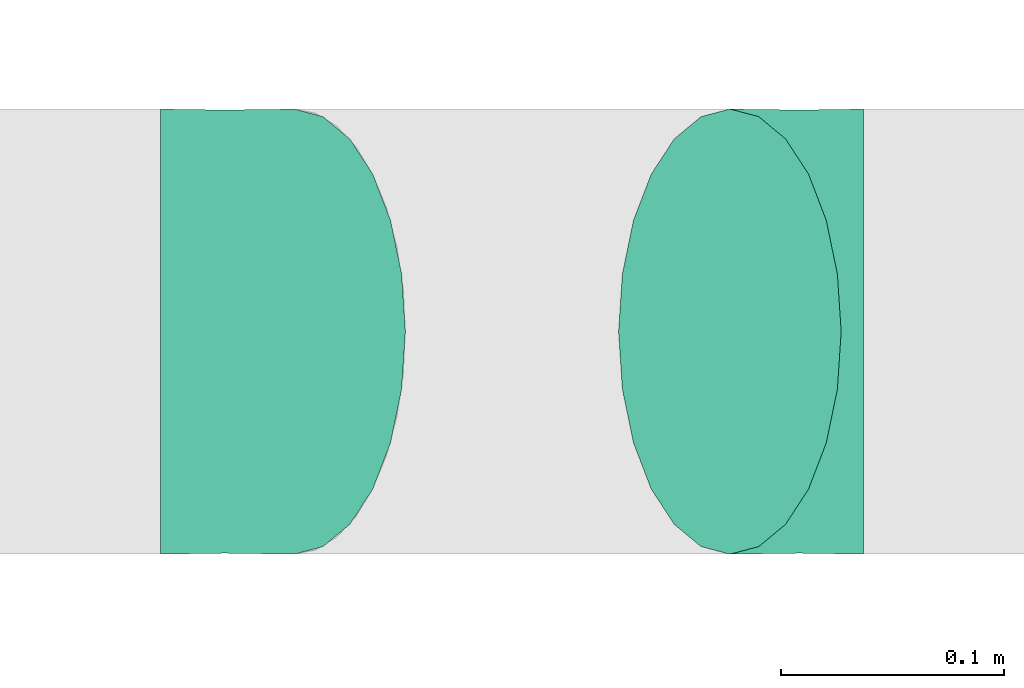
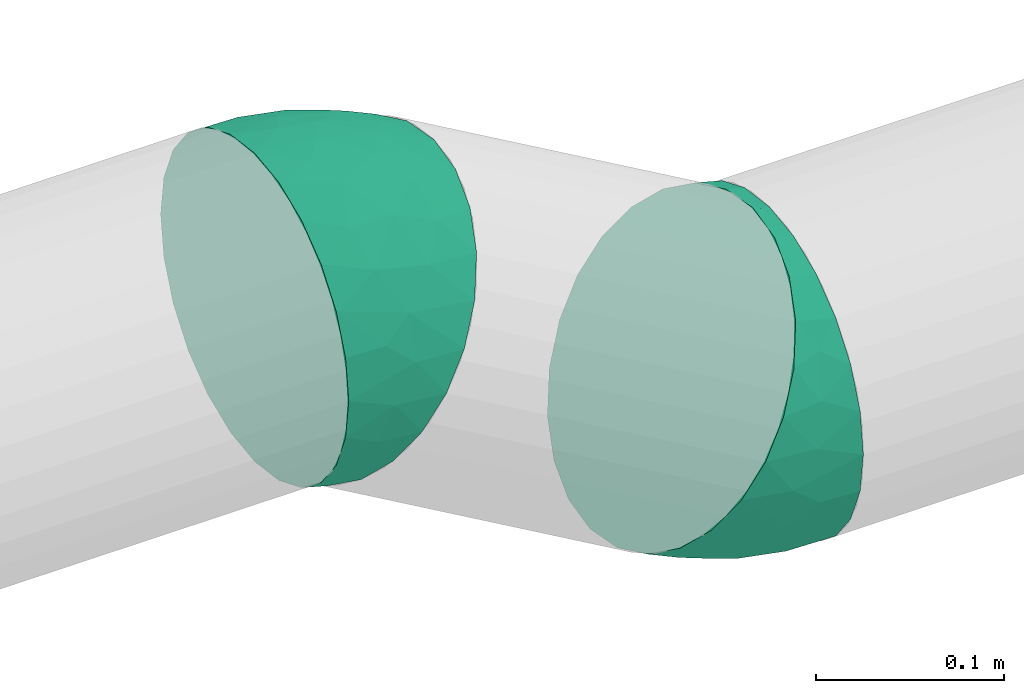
# One storey, part 16 of 16: 2 flow fittings.
"""IFC2X3 building model written with IfcOpenShell, lengths in millimetres."""

from ifc_helpers import new_model, entity, si_unit, converted_unit, derived_unit, direction, frame, origin_with_axes, place, context, subcontext, project, spatial, open_shell, surface_model, source, transform, mapped, type_object, element, save


model = new_model("IFC2X3")

# Units and contexts
model_context = context("Model", 3, precision=0.01, world=frame((0.0, 4.29681676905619e-09, 0.0)), true_north=direction((4.01073788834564e-13, 1.0)))
plan_context = context("Plan", 3, precision=0.01, world=frame((0.0, 4.29681676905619e-09, 0.0)), true_north=direction((4.01073788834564e-13, 1.0)))
body_context = subcontext(model_context, "Body", "Model", "MODEL_VIEW")
ifc_project = project(units=[converted_unit("PLANEANGLEUNIT", "DEGREE", entity("IfcPositiveLengthMeasure", 0.0174532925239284), si_unit("PLANEANGLEUNIT", "RADIAN"), dimensions=[0, 0, 0, 0, 0, 0, 0]), si_unit("AREAUNIT", "SQUARE_METRE"), si_unit("LENGTHUNIT", "METRE", prefix="MILLI"), si_unit("MASSUNIT", "GRAM", prefix="KILO"), si_unit("POWERUNIT", "WATT"), si_unit("PRESSUREUNIT", "PASCAL"), si_unit("FORCEUNIT", "NEWTON", prefix="KILO"), si_unit("ELECTRICVOLTAGEUNIT", "VOLT"), si_unit("ELECTRICCURRENTUNIT", "AMPERE"), si_unit("THERMODYNAMICTEMPERATUREUNIT", "DEGREE_CELSIUS"), si_unit("TIMEUNIT", "SECOND"), si_unit("VOLUMEUNIT", "CUBIC_METRE"), derived_unit("LINEARVELOCITYUNIT", [(si_unit("LENGTHUNIT", "METRE"), 1), (si_unit("TIMEUNIT", "SECOND"), -1)]), derived_unit("VOLUMETRICFLOWRATEUNIT", [(si_unit("VOLUMEUNIT", "CUBIC_METRE"), 1), (si_unit("TIMEUNIT", "SECOND"), -1)]), derived_unit("THERMALTRANSMITTANCEUNIT", [(si_unit("POWERUNIT", "WATT"), 1), (si_unit("THERMODYNAMICTEMPERATUREUNIT", "KELVIN"), -1), (si_unit("AREAUNIT", "SQUARE_METRE"), -1)]), derived_unit("SOUNDPRESSUREUNIT", [(si_unit("PRESSUREUNIT", "PASCAL"), 1)])], contexts=[model_context, plan_context])

# Site, building, storey
site_placement = place(None, frame((0.0, -4.29681676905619e-09, 0.0), z_axis=(0.0, 0.0, 1.0), x_axis=(1.0, 0.0, 0.0)))
site = spatial("IfcSite", under=ifc_project, at=site_placement, Name="ENGM", CompositionType="ELEMENT")
building_placement = place(site_placement, frame((0.0, 4.29681676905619e-09, 0.0), z_axis=(0.0, 0.0, 1.0), x_axis=(1.0, 0.0, 0.0)))
building = spatial("IfcBuilding", under=site, at=building_placement, Name="TH", CompositionType="ELEMENT")
storey_placement = place(building_placement, frame((0.0, 0.0, 210200.0), z_axis=(0.0, 0.0, 1.0), x_axis=(1.0, 0.0, 0.0)))
storey = spatial("IfcBuildingStorey", under=building, at=storey_placement, Name="Nivå F - 0,7 m", CompositionType="ELEMENT", Elevation=210200.0)

# Flow fittings
duct_fitting_type = type_object("IfcDuctFittingType", Name="magicirc_elbow_short_001", PredefinedType="BEND")
shared_shape_1 = source(origin_with_axes(), body_context, "Body", "SurfaceModel", [
    surface_model("IfcShellBasedSurfaceModel", [(-32.1539, 0.0, -100.0), (-32.1539, -70.71068, -70.71068), (-32.1539, 25.8819, -96.59259), (-32.1539, 50.0, -86.60254), (-32.1539, 70.71068, -70.71068), (-32.1539, 96.59259, -25.8819), (-32.1539, 86.60254, -50.0), (-32.1539, -86.60254, -50.0), (-32.1539, -50.0, -86.60254), (-32.1539, -25.8819, -96.59259), (-32.1539, -96.59259, -25.8819), (-32.1539, -100.0, 0.0), (-32.1539, 96.59259, 25.8819), (-32.1539, 25.8819, 96.59259), (-32.1539, 86.60254, 50.0), (-32.1539, 50.0, 86.60254), (-32.1539, 70.71068, 70.71068), (-32.1539, -25.8819, 96.59259), (-32.1539, -70.71068, 70.71068), (-32.1539, -50.0, 86.60254), (-32.1539, -86.60254, 50.0), (-32.1539, -96.59259, 25.8819), (-32.1539, 0.0, 100.0), (-32.1539, 100.0, 0.0), (14.90514, 38.49134, -96.59259), (71.14737, -58.92305, -50.0), (27.8461, 16.07695, -100.0), (-7.50924, 77.31419, -70.71068), (2.8461, 59.37822, -86.60254), (-15.45517, 91.07695, -50.0), (76.14239, -67.57468, 25.8819), (40.78705, -6.33744, -96.59259), (63.20143, -45.16029, -70.71068), (52.8461, -27.22432, -86.60254), (77.84609, -70.52559, 0.0), (76.14239, -67.57468, -25.8819), (-20.45019, 99.72858, -25.8819), (14.90514, 38.49134, 96.59259), (-22.1539, 102.67949, 0.0), (-20.45019, 99.72858, 25.8819), (-7.50924, 77.31419, 70.71068), (-15.45517, 91.07695, 50.0), (2.8461, 59.37822, 86.60254), (40.78705, -6.33744, 96.59259), (71.14737, -58.92305, 50.0), (52.8461, -27.22432, 86.60254), (63.20143, -45.16029, 70.71068), (27.8461, 16.07695, 100.0), (-8.47463, -79.45846, 58.83709), (1.79522, -91.05127, 34.75994), (20.30254, -75.77013, 56.25526), (-8.04216, -97.13699, 17.41662), (6.0487, -96.65771, 0.0), (43.97093, -79.75033, 34.75994), (-0.06252, -60.74726, 77.19029), (9.90667, -36.97222, 90.51482), (-3.98227, -13.32425, 98.66787), (-3.55561, 13.2697, 99.54728), (-10.26931, 38.32557, 93.50772), (-16.33227, 60.95287, 80.83522), (47.06847, -64.57573, 58.83709), (-26.97752, 100.68148, 0.0), (32.72282, -51.50192, 77.36383), (16.69527, -92.85077, 17.90344), (18.63137, -17.74909, 96.33837), (55.53321, -80.10203, 17.41662), (43.09053, -86.73238, 0.0), (43.97093, -79.75033, -34.75994), (30.42778, -52.57741, -77.19029), (-10.26931, 38.32557, -93.50772), (-3.55561, 13.2697, -99.54728), (10.11088, -9.548, -98.66787), (-7.2607, -24.68685, -96.33837), (20.30254, -75.77013, -56.25526), (-2.58784, -60.96338, -77.36383), (-16.33227, 60.95287, -80.83522), (-8.04216, -97.13699, -17.41662), (1.79523, -91.05126, -34.75994), (-8.47463, -79.45846, -58.83709), (31.96686, -88.75877, -17.90344), (55.53321, -80.10203, -17.41662), (47.06847, -64.57573, -58.83709), (9.90668, -36.97222, -90.51482)], [open_shell([[[0, 1, 2]], [[3, 2, 4]], [[5, 6, 4]], [[7, 4, 2]], [[4, 7, 5]], [[8, 1, 9]], [[1, 0, 9]], [[10, 11, 7]], [[7, 2, 1]], [[7, 11, 5]], [[11, 12, 5]], [[13, 12, 11]], [[14, 12, 13]], [[13, 15, 16]], [[14, 13, 16]], [[17, 13, 11]], [[18, 19, 20]], [[21, 20, 19]], [[19, 17, 21]], [[21, 17, 11]], [[17, 22, 13]], [[12, 23, 5]], [[24, 25, 26]], [[27, 24, 28]], [[24, 29, 30]], [[29, 24, 27]], [[24, 30, 25]], [[31, 32, 33]], [[32, 31, 25]], [[25, 34, 35]], [[25, 31, 26]], [[25, 30, 34]], [[30, 29, 36]], [[37, 38, 39]], [[40, 39, 41]], [[42, 37, 39]], [[42, 39, 40]], [[38, 37, 43]], [[44, 45, 46]], [[45, 44, 30]], [[30, 43, 45]], [[36, 43, 30]], [[37, 47, 43]], [[43, 36, 38]], [[48, 49, 50]], [[51, 11, 52]], [[49, 53, 50]], [[48, 54, 18]], [[55, 19, 54]], [[20, 48, 18]], [[21, 49, 20]], [[17, 19, 55]], [[22, 56, 57]], [[19, 18, 54]], [[11, 51, 21]], [[21, 51, 49]], [[57, 13, 22]], [[58, 15, 13]], [[17, 55, 56]], [[22, 17, 56]], [[57, 58, 13]], [[59, 16, 15]], [[53, 60, 50]], [[16, 41, 14]], [[39, 12, 14]], [[49, 48, 20]], [[12, 61, 23]], [[55, 62, 45]], [[49, 63, 53]], [[63, 51, 52]], [[56, 47, 57]], [[45, 62, 46]], [[43, 64, 45]], [[64, 47, 56]], [[65, 30, 53]], [[44, 60, 53]], [[46, 60, 44]], [[54, 62, 55]], [[49, 51, 63]], [[65, 34, 30]], [[62, 60, 46]], [[47, 37, 57]], [[54, 48, 50]], [[39, 61, 12]], [[58, 59, 15]], [[38, 61, 39]], [[42, 40, 59]], [[14, 41, 39]], [[50, 60, 62]], [[59, 40, 16]], [[50, 62, 54]], [[40, 41, 16]], [[64, 56, 55]], [[58, 42, 59]], [[58, 57, 37]], [[37, 42, 58]], [[63, 66, 65]], [[44, 53, 30]], [[63, 65, 53]], [[52, 66, 63]], [[34, 65, 66]], [[45, 64, 55]], [[47, 64, 43]], [[25, 35, 67]], [[33, 32, 68]], [[2, 69, 70]], [[71, 72, 0]], [[6, 29, 4]], [[73, 74, 68]], [[27, 75, 4]], [[76, 10, 77]], [[69, 3, 75]], [[73, 78, 74]], [[52, 76, 79]], [[5, 36, 6]], [[11, 10, 76]], [[34, 80, 35]], [[67, 81, 25]], [[78, 77, 7]], [[8, 74, 1]], [[26, 31, 71]], [[10, 7, 77]], [[1, 78, 7]], [[8, 9, 72]], [[72, 71, 82]], [[70, 69, 24]], [[68, 81, 73]], [[5, 23, 61]], [[79, 76, 77]], [[61, 38, 36]], [[69, 75, 28]], [[28, 24, 69]], [[36, 29, 6]], [[4, 75, 3]], [[24, 26, 70]], [[2, 3, 69]], [[82, 68, 74]], [[35, 80, 67]], [[4, 29, 27]], [[31, 82, 71]], [[70, 0, 2]], [[82, 31, 33]], [[0, 70, 71]], [[25, 81, 32]], [[68, 82, 33]], [[67, 77, 73]], [[71, 70, 26]], [[73, 81, 67]], [[82, 74, 8]], [[66, 80, 34]], [[27, 28, 75]], [[77, 78, 73]], [[80, 79, 67]], [[81, 68, 32]], [[74, 78, 1]], [[52, 79, 66]], [[61, 36, 5]], [[77, 67, 79]], [[79, 80, 66]], [[11, 76, 52]], [[8, 72, 82]], [[0, 72, 9]]])]),
])
flow_fitting_1_placement = place(storey_placement, frame((905600.5554, 486337.00187, 2598.0), z_axis=(0.0, 1.0, 0.0), x_axis=(-1.0, 0.0, 0.0)))
element("IfcFlowFitting", 1, at=flow_fitting_1_placement, inside=storey, type_object=duct_fitting_type, Name="magicirc_elbow_short_001", context=body_context, shape_type="MappedRepresentation", body=[
    mapped(shared_shape_1, transform((0.0, 0.0, 0.0), scale=1.0)),
])
shared_shape_2 = source(origin_with_axes(), body_context, "Body", "SurfaceModel", [
    surface_model("IfcShellBasedSurfaceModel", [(-32.15119, 0.0, -100.0), (-32.15119, -70.71068, -70.71068), (-32.15119, 25.8819, -96.59259), (-32.15119, 50.0, -86.60254), (-32.15119, 70.71068, -70.71068), (-32.15119, 96.59259, -25.8819), (-32.15119, 86.60254, -50.0), (-32.15119, -86.60254, -50.0), (-32.15119, -50.0, -86.60254), (-32.15119, -25.8819, -96.59259), (-32.15119, -96.59259, -25.8819), (-32.15119, -100.0, 0.0), (-32.15119, 96.59259, 25.8819), (-32.15119, 25.8819, 96.59259), (-32.15119, 86.60254, 50.0), (-32.15119, 50.0, 86.60254), (-32.15119, 70.71068, 70.71068), (-32.15119, -25.8819, 96.59259), (-32.15119, -70.71068, 70.71068), (-32.15119, -50.0, 86.60254), (-32.15119, -86.60254, 50.0), (-32.15119, -96.59259, 25.8819), (-32.15119, 0.0, 100.0), (-32.15119, 100.0, 0.0), (14.90442, 38.48936, -96.59259), (71.14254, -58.9274, -50.0), (27.84443, 16.07442, -100.0), (-7.50833, 77.31316, -70.71068), (2.84625, 59.37675, -86.60254), (-15.45368, 91.07624, -50.0), (-20.44834, 99.72809, -25.8819), (76.13719, -67.57924, 25.8819), (40.78443, -6.34051, -96.59259), (63.19719, -45.16431, -70.71068), (52.8426, -27.2279, -86.60254), (77.84078, -70.53022, 0.0), (76.13719, -67.57924, -25.8819), (-22.15192, 102.67907, 0.0), (-20.44834, 99.72809, 25.8819), (14.90442, 38.48936, 96.59259), (-15.45368, 91.07624, 50.0), (-7.50833, 77.31316, 70.71068), (2.84625, 59.37675, 86.60254), (40.78443, -6.34051, 96.59259), (71.14254, -58.9274, 50.0), (52.8426, -27.2279, 86.60254), (63.19719, -45.16431, 70.71068), (27.84443, 16.07442, 100.0), (-8.47434, -79.45848, 58.83747), (1.79646, -91.05135, 34.76037), (20.30099, -75.77073, 56.25602), (-8.04004, -97.13696, 17.41719), (6.04836, -96.65824, 0.0), (43.96653, -79.75286, 34.76037), (-0.0608, -60.74715, 77.19053), (9.9059, -36.97245, 90.51514), (-3.97989, -13.32403, 98.66791), (-3.55529, 13.26965, 99.54723), (-10.26844, 38.32555, 93.50755), (-16.33089, 60.95285, 80.83498), (47.0655, -64.57787, 58.83746), (-26.97522, 100.68137, 0.0), (32.72156, -51.50289, 77.36424), (16.69974, -92.85037, 17.90342), (18.63062, -17.75126, 96.33813), (55.52798, -80.10539, 17.41719), (43.08743, -86.73449, 0.0), (43.96653, -79.75286, -34.76037), (30.42401, -52.57945, -77.19053), (-10.26844, 38.32555, -93.50755), (-3.5553, 13.26965, -99.54723), (10.10831, -9.54943, -98.66791), (-7.25999, -24.68805, -96.33813), (20.301, -75.77073, -56.25602), (-2.58884, -60.96348, -77.36424), (-16.33089, 60.95286, -80.83498), (-8.04004, -97.13696, -17.41719), (1.79646, -91.05135, -34.76037), (-8.47434, -79.45847, -58.83747), (31.95904, -88.76201, -17.90342), (55.52798, -80.10539, -17.41719), (47.06551, -64.57787, -58.83747), (9.9059, -36.97246, -90.51514)], [open_shell([[[0, 1, 2]], [[3, 2, 4]], [[5, 6, 4]], [[7, 4, 2]], [[4, 7, 5]], [[8, 1, 9]], [[1, 0, 9]], [[10, 11, 7]], [[7, 2, 1]], [[7, 11, 5]], [[11, 12, 5]], [[13, 12, 11]], [[14, 12, 13]], [[13, 15, 16]], [[14, 13, 16]], [[17, 13, 11]], [[18, 19, 20]], [[21, 20, 19]], [[19, 17, 21]], [[21, 17, 11]], [[17, 22, 13]], [[12, 23, 5]], [[24, 25, 26]], [[27, 24, 28]], [[27, 29, 30]], [[24, 27, 31]], [[31, 25, 24]], [[32, 33, 34]], [[33, 32, 25]], [[25, 35, 36]], [[25, 32, 26]], [[25, 31, 35]], [[30, 37, 27]], [[38, 31, 37]], [[39, 38, 40]], [[41, 42, 39]], [[41, 39, 40]], [[43, 38, 39]], [[44, 45, 46]], [[44, 31, 38]], [[44, 43, 45]], [[38, 43, 44]], [[39, 47, 43]], [[37, 31, 27]], [[48, 49, 50]], [[51, 11, 52]], [[49, 53, 50]], [[48, 54, 18]], [[55, 19, 54]], [[20, 48, 18]], [[21, 49, 20]], [[17, 19, 55]], [[22, 56, 57]], [[19, 18, 54]], [[11, 51, 21]], [[21, 51, 49]], [[57, 13, 22]], [[58, 15, 13]], [[17, 55, 56]], [[22, 17, 56]], [[57, 58, 13]], [[59, 16, 15]], [[53, 60, 50]], [[16, 40, 14]], [[38, 12, 14]], [[49, 48, 20]], [[12, 61, 23]], [[55, 62, 45]], [[49, 63, 53]], [[63, 51, 52]], [[56, 47, 57]], [[45, 62, 46]], [[43, 64, 45]], [[64, 47, 56]], [[65, 31, 53]], [[44, 60, 53]], [[46, 60, 44]], [[54, 62, 55]], [[49, 51, 63]], [[65, 35, 31]], [[62, 60, 46]], [[47, 39, 57]], [[54, 48, 50]], [[38, 61, 12]], [[58, 59, 15]], [[37, 61, 38]], [[42, 41, 59]], [[14, 40, 38]], [[50, 60, 62]], [[59, 41, 16]], [[50, 62, 54]], [[41, 40, 16]], [[64, 56, 55]], [[58, 42, 59]], [[58, 57, 39]], [[39, 42, 58]], [[63, 66, 65]], [[44, 53, 31]], [[63, 65, 53]], [[52, 66, 63]], [[35, 65, 66]], [[45, 64, 55]], [[47, 64, 43]], [[25, 36, 67]], [[34, 33, 68]], [[2, 69, 70]], [[71, 72, 0]], [[6, 29, 4]], [[73, 74, 68]], [[27, 75, 4]], [[76, 10, 77]], [[69, 3, 75]], [[73, 78, 74]], [[52, 76, 79]], [[5, 30, 6]], [[11, 10, 76]], [[35, 80, 36]], [[67, 81, 25]], [[78, 77, 7]], [[8, 74, 1]], [[26, 32, 71]], [[10, 7, 77]], [[1, 78, 7]], [[8, 9, 72]], [[72, 71, 82]], [[70, 69, 24]], [[68, 81, 73]], [[5, 23, 61]], [[79, 76, 77]], [[61, 37, 30]], [[69, 75, 28]], [[28, 24, 69]], [[30, 29, 6]], [[4, 75, 3]], [[24, 26, 70]], [[2, 3, 69]], [[82, 68, 74]], [[36, 80, 67]], [[4, 29, 27]], [[32, 82, 71]], [[70, 0, 2]], [[82, 32, 34]], [[0, 70, 71]], [[25, 81, 33]], [[68, 82, 34]], [[67, 77, 73]], [[71, 70, 26]], [[73, 81, 67]], [[82, 74, 8]], [[66, 80, 35]], [[27, 28, 75]], [[77, 78, 73]], [[80, 79, 67]], [[81, 68, 33]], [[74, 78, 1]], [[52, 79, 66]], [[61, 30, 5]], [[77, 67, 79]], [[79, 80, 66]], [[11, 76, 52]], [[8, 72, 82]], [[0, 72, 9]]])]),
])
flow_fitting_2_placement = place(storey_placement, frame((905349.10019, 486337.00187, 2743.17774000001), z_axis=(0.0, -1.0, 0.0), x_axis=(-0.866025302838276, 0.0, 0.500000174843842)))
element("IfcFlowFitting", 2, at=flow_fitting_2_placement, inside=storey, type_object=duct_fitting_type, Name="magicirc_elbow_short_001", context=body_context, shape_type="MappedRepresentation", body=[
    mapped(shared_shape_2, transform((0.0, 0.0, 0.0), scale=1.0)),
])

save(model, "model.ifc")
